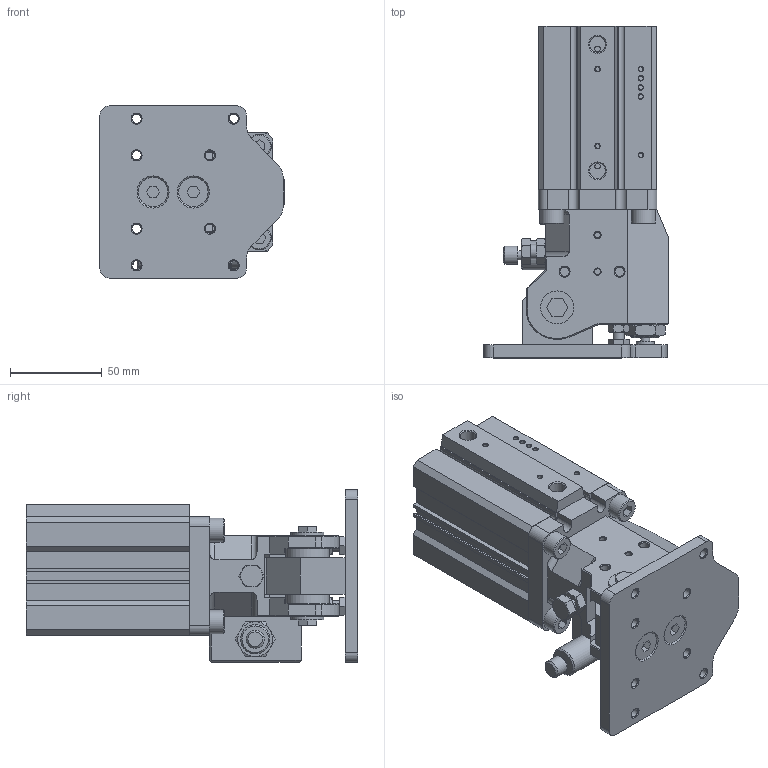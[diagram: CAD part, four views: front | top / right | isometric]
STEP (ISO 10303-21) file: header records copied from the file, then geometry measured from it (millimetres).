
FILE_DESCRIPTION(/* description */ (''),/* implementation_level */ '2;1');
FILE_NAME(/* name */ 'DHR2C-50M35-ZG-ZB-AC.stp',/* time_stamp */ '2024-06-17T14:02:05+08:00',/* author */ (''),/* organization */ (''),/* preprocessor_version */ 'ST-DEVELOPER v15',/* originating_system */ 'SIEMENS PLM Software NX 10.0',/* authorisation */ '');
FILE_SCHEMA (('AP203_CONFIGURATION_CONTROLLED_3D_DESIGN_OF_MECHANICAL_PARTS_AND_ASSEMBLIES_MIM_LF { 1 0 10303 403 2 1 2}'));
Length unit declared in the file: millimetre
Products named in the file (1): Admi17A8933F7anp
Bounding box: 100.5 x 181 x 94 mm (x, y, z)
Volume: 649064.9 mm3; surface area: 155785.5 mm2
Topology: 34 solids, 34 shells, 747 faces, 1696 edges, 1079 vertices
Faces by surface type: plane 394, cone 184, cylinder 163, bspline 4, torus 2
Full cylindrical faces by diameter (mm): 2 x4, 2.5 x7, 3 x2, 3.3 x6, 4 x1, 4.2 x4, 5 x21, 6 x11, 6.5 x4, 6.75 x4, 7 x2, 8 x7, 8.5 x2, 8.6 x6, 10 x4, 11 x2, 12 x6, 13 x4, 14.5 x6, 16 x4, 18 x2, 20 x1, 22 x1, 22.8 x1, 24 x3, 28 x1, 38 x2, 38.5 x1, 52 x2, 54 x2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
Entity records: 20725 total; most frequent: CARTESIAN_POINT 4938, DIRECTION 3216, ORIENTED_EDGE 2816, EDGE_CURVE 1408, AXIS2_PLACEMENT_3D 1228, EDGE_LOOP 1137, VERTEX_POINT 1021, LINE 760
